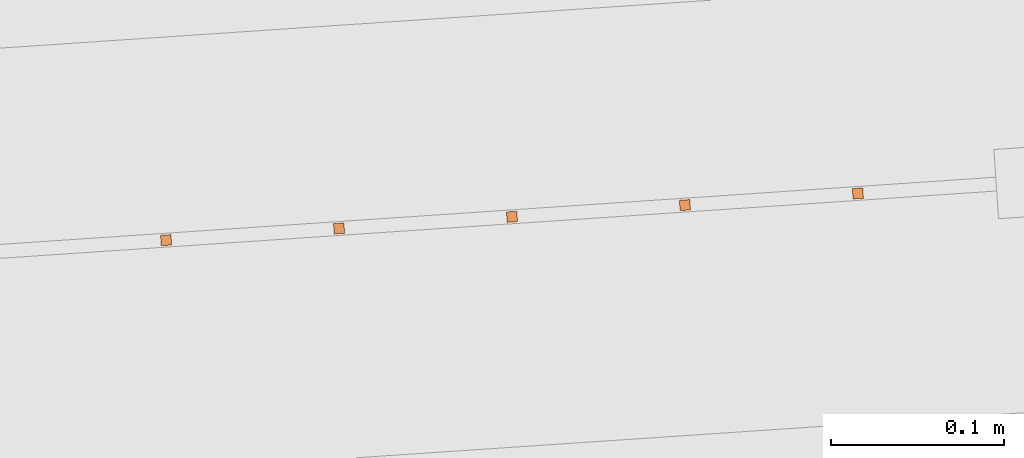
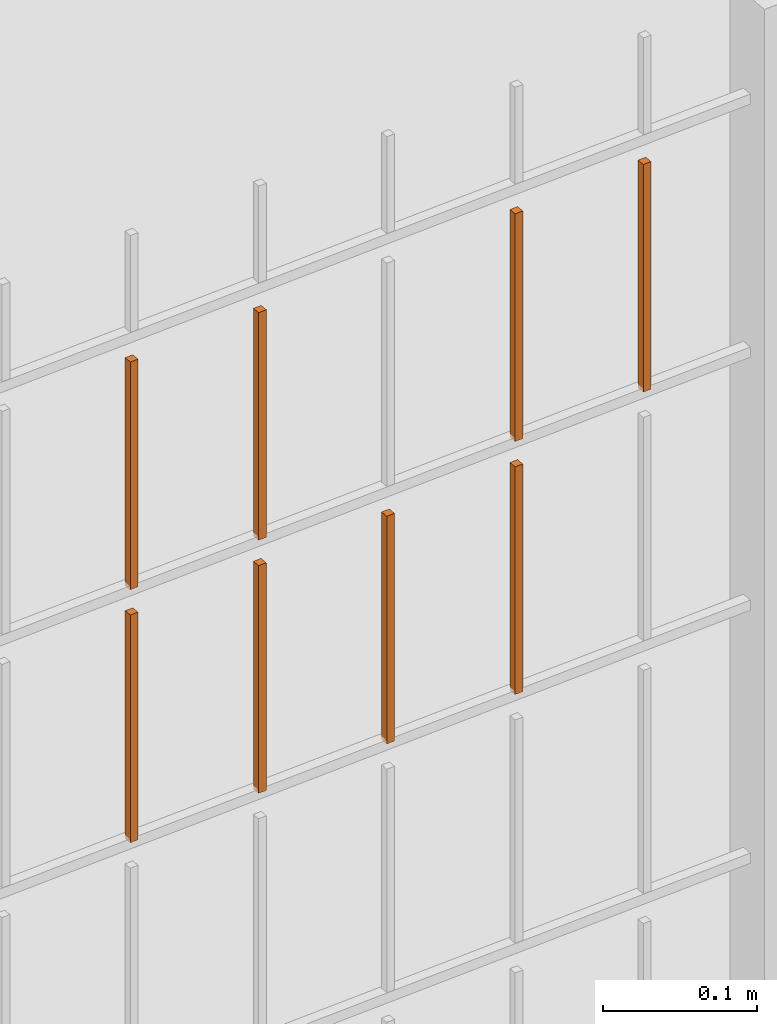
# One storey, part 76 of 1809: 8 proxies, 1 element without a shape of its own.
"""IFC2X3 building model written with IfcOpenShell, lengths in millimetres."""

from ifc_helpers import new_model, entity, si_unit, converted_unit, derived_unit, money_unit, direction, frame, origin_with_axes, place, context, subcontext, project, spatial, faceted_brep, source, transform, mapped, material, type_object, element, aggregate, save


model = new_model("IFC2X3")

# Units and contexts
model_context = context("Model", 3, precision=0.01, world=origin_with_axes(), true_north=direction((0.0, 1.0)))
body_context = subcontext(model_context, "Body", "Model", "MODEL_VIEW")
ifc_project = project(units=[si_unit("LENGTHUNIT", "METRE", prefix="MILLI"), si_unit("AREAUNIT", "SQUARE_METRE"), si_unit("VOLUMEUNIT", "CUBIC_METRE"), converted_unit("PLANEANGLEUNIT", "DEGREE", entity("IfcPlaneAngleMeasure", 0.0174532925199), si_unit("PLANEANGLEUNIT", "RADIAN"), dimensions=[0, 0, 0, 0, 0, 0, 0]), si_unit("SOLIDANGLEUNIT", "STERADIAN"), money_unit("EUR"), converted_unit("TIMEUNIT", "Year", entity("IfcTimeMeasure", 31556926.0), si_unit("TIMEUNIT", "SECOND"), dimensions=[0, 0, 1, 0, 0, 0, 0]), si_unit("MASSUNIT", "GRAM", prefix="KILO"), si_unit("THERMODYNAMICTEMPERATUREUNIT", "DEGREE_CELSIUS"), si_unit("LUMINOUSINTENSITYUNIT", "LUMEN"), si_unit("ENERGYUNIT", "JOULE", prefix="MEGA"), derived_unit("THERMALCONDUCTANCEUNIT", [(si_unit("POWERUNIT", "WATT"), 1), (si_unit("LENGTHUNIT", "METRE"), -1), (si_unit("THERMODYNAMICTEMPERATUREUNIT", "KELVIN"), -1)]), derived_unit("SPECIFICHEATCAPACITYUNIT", [(si_unit("ENERGYUNIT", "JOULE"), 1), (si_unit("MASSUNIT", "GRAM", prefix="KILO"), -1), (si_unit("THERMODYNAMICTEMPERATUREUNIT", "KELVIN"), -1)]), derived_unit("MASSDENSITYUNIT", [(si_unit("MASSUNIT", "GRAM", prefix="KILO"), 1), (si_unit("VOLUMEUNIT", "CUBIC_METRE"), -1)])], contexts=[model_context])

# Site, building, storey
site_placement = place(None, origin_with_axes())
site = spatial("IfcSite", under=ifc_project, at=site_placement, Name="Politse- ja Piirivalveameti ning Päästeameti ühishoone", CompositionType="ELEMENT")
building_placement = place(site_placement, origin_with_axes())
building = spatial("IfcBuilding", under=site, at=building_placement, Name="Politse- ja Piirivalveameti ning Päästeameti ühishoone", CompositionType="ELEMENT")
storey_placement = place(building_placement, origin_with_axes())
storey = spatial("IfcBuildingStorey", under=building, at=storey_placement, Name="Esimene korrus", CompositionType="ELEMENT", Elevation=0.0)

# Proxies
building_element_proxy_type_1 = type_object("IfcBuildingElementProxyType", Name="Railing Type", PredefinedType="NOTDEFINED")
proxy_1_placement = place(storey_placement, frame((89252.001212, -29183.4766571, 203.661247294), z_axis=(0.0, 0.0, 1.0), x_axis=(1.0, 0.0, 0.0)))
proxy_1 = element("IfcBuildingElementProxy", 1, at=proxy_1_placement, inside=storey, type_object=building_element_proxy_type_1, Name="PIIRDEAED")
ifc_material = material(Name="ET-03_Raud")
building_element_proxy_type_2 = type_object("IfcBuildingElementProxyType", Name="IfcBuildingElementProxy", PredefinedType="NOTDEFINED")
shared_shape_1 = source(origin_with_axes(), body_context, "Body", "Brep", [
    faceted_brep([(3.0, 3.0, -0.000752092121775), (-3.0, 3.0, -0.000752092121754), (-3.0, 3.0, 179.99926046), (3.0, 3.0, 179.99926046), (3.0, -3.0, 0.000752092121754), (-3.0, -3.0, 0.000752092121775), (-3.0, -3.0, 180.000764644), (3.0, -3.0, 180.000764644)], [[[0, 1, 2, 3]], [[0, 4, 5, 1]], [[1, 5, 6, 2]], [[3, 2, 6, 7]], [[4, 0, 3, 7]], [[5, 4, 7, 6]]]),
])
proxy_2_placement = place(proxy_1_placement, frame((-104787.91297, -24375.8028274, 1800.90447064), z_axis=(0.0, 0.0, 1.0), x_axis=(1.0, 0.0, 0.0)))
proxy_2 = element("IfcBuildingElementProxy", 2, at=proxy_2_placement, type_object=building_element_proxy_type_2, material=ifc_material, Name="BALUSTER - 001", context=body_context, shape_type="MappedRepresentation", body=[
    mapped(shared_shape_1, transform((0.0, 0.0, 0.0), x_axis=(-0.0673926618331, 0.997726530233, 0.0), y_axis=(-0.997726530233, -0.0673926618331, 0.0), z_axis=(0.0, 0.0, 1.0))),
])
shared_shape_2 = source(origin_with_axes(), body_context, "Body", "Brep", [
    faceted_brep([(3.0, 3.0, -0.000752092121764), (-3.0, 3.0, -0.000752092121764), (-3.0, 3.0, 179.99926046), (3.0, 3.0, 179.99926046), (3.0, -3.0, 0.000752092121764), (-3.0, -3.0, 0.000752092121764), (-3.0, -3.0, 180.000764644), (3.0, -3.0, 180.000764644)], [[[0, 1, 2, 3]], [[0, 4, 5, 1]], [[1, 5, 6, 2]], [[3, 2, 6, 7]], [[4, 0, 3, 7]], [[5, 4, 7, 6]]]),
])
proxy_3_placement = place(proxy_1_placement, frame((-104688.140317, -24369.0635612, 1800.92954038), z_axis=(0.0, 0.0, 1.0), x_axis=(1.0, 0.0, 0.0)))
proxy_3 = element("IfcBuildingElementProxy", 3, at=proxy_3_placement, type_object=building_element_proxy_type_2, material=ifc_material, Name="BALUSTER - 001", context=body_context, shape_type="MappedRepresentation", body=[
    mapped(shared_shape_2, transform((0.0, 0.0, 0.0), x_axis=(-0.0673926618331, 0.997726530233, 0.0), y_axis=(-0.997726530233, -0.0673926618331, 0.0), z_axis=(0.0, 0.0, 1.0))),
])
shared_shape_3 = source(origin_with_axes(), body_context, "Body", "Brep", [
    faceted_brep([(3.0, 3.0, -0.000752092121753), (-3.0, 3.0, -0.000752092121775), (-3.0, 3.0, 179.99926046), (3.0, 3.0, 179.99926046), (3.0, -3.0, 0.000752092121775), (-3.0, -3.0, 0.000752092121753), (-3.0, -3.0, 180.000764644), (3.0, -3.0, 180.000764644)], [[[0, 1, 2, 3]], [[0, 4, 5, 1]], [[1, 5, 6, 2]], [[3, 2, 6, 7]], [[4, 0, 3, 7]], [[5, 4, 7, 6]]]),
])
proxy_4_placement = place(proxy_1_placement, frame((-105087.230929, -24396.0206259, 1800.82926143), z_axis=(0.0, 0.0, 1.0), x_axis=(1.0, 0.0, 0.0)))
proxy_4 = element("IfcBuildingElementProxy", 4, at=proxy_4_placement, type_object=building_element_proxy_type_2, material=ifc_material, Name="BALUSTER - 001", context=body_context, shape_type="MappedRepresentation", body=[
    mapped(shared_shape_3, transform((0.0, 0.0, 0.0), x_axis=(-0.0673926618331, 0.997726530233, 0.0), y_axis=(-0.997726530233, -0.0673926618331, 0.0), z_axis=(0.0, 0.0, 1.0))),
])
shared_shape_4 = source(origin_with_axes(), body_context, "Body", "Brep", [
    faceted_brep([(3.0, 3.0, -0.000752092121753), (-3.0, 3.0, -0.000752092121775), (-3.0, 3.0, 179.99926046), (3.0, 3.0, 179.99926046), (3.0, -3.0, 0.000752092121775), (-3.0, -3.0, 0.000752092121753), (-3.0, -3.0, 180.000764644), (3.0, -3.0, 180.000764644)], [[[0, 1, 2, 3]], [[0, 4, 5, 1]], [[1, 5, 6, 2]], [[3, 2, 6, 7]], [[4, 0, 3, 7]], [[5, 4, 7, 6]]]),
])
proxy_5_placement = place(proxy_1_placement, frame((-105087.230929, -24396.0206259, 1600.82926143), z_axis=(0.0, 0.0, 1.0), x_axis=(1.0, 0.0, 0.0)))
proxy_5 = element("IfcBuildingElementProxy", 5, at=proxy_5_placement, type_object=building_element_proxy_type_2, material=ifc_material, Name="BALUSTER - 001", context=body_context, shape_type="MappedRepresentation", body=[
    mapped(shared_shape_4, transform((0.0, 0.0, 0.0), x_axis=(-0.0673926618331, 0.997726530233, 0.0), y_axis=(-0.997726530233, -0.0673926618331, 0.0), z_axis=(0.0, 0.0, 1.0))),
])
shared_shape_5 = source(origin_with_axes(), body_context, "Body", "Brep", [
    faceted_brep([(3.0, 3.0, -0.000752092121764), (-3.0, 3.0, -0.000752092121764), (-3.0, 3.0, 179.99926046), (3.0, 3.0, 179.99926046), (3.0, -3.0, 0.000752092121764), (-3.0, -3.0, 0.000752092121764), (-3.0, -3.0, 180.000764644), (3.0, -3.0, 180.000764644)], [[[0, 1, 2, 3]], [[0, 4, 5, 1]], [[1, 5, 6, 2]], [[3, 2, 6, 7]], [[4, 0, 3, 7]], [[5, 4, 7, 6]]]),
])
proxy_6_placement = place(proxy_1_placement, frame((-104987.458276, -24389.2813598, 1800.85433117), z_axis=(0.0, 0.0, 1.0), x_axis=(1.0, 0.0, 0.0)))
proxy_6 = element("IfcBuildingElementProxy", 6, at=proxy_6_placement, type_object=building_element_proxy_type_2, material=ifc_material, Name="BALUSTER - 001", context=body_context, shape_type="MappedRepresentation", body=[
    mapped(shared_shape_5, transform((0.0, 0.0, 0.0), x_axis=(-0.0673926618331, 0.997726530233, 0.0), y_axis=(-0.997726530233, -0.0673926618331, 0.0), z_axis=(0.0, 0.0, 1.0))),
])
shared_shape_6 = source(origin_with_axes(), body_context, "Body", "Brep", [
    faceted_brep([(3.0, 3.0, -0.000752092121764), (-3.0, 3.0, -0.000752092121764), (-3.0, 3.0, 179.99926046), (3.0, 3.0, 179.99926046), (3.0, -3.0, 0.000752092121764), (-3.0, -3.0, 0.000752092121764), (-3.0, -3.0, 180.000764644), (3.0, -3.0, 180.000764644)], [[[0, 1, 2, 3]], [[0, 4, 5, 1]], [[1, 5, 6, 2]], [[3, 2, 6, 7]], [[4, 0, 3, 7]], [[5, 4, 7, 6]]]),
])
proxy_7_placement = place(proxy_1_placement, frame((-104987.458276, -24389.2813598, 1600.85433117), z_axis=(0.0, 0.0, 1.0), x_axis=(1.0, 0.0, 0.0)))
proxy_7 = element("IfcBuildingElementProxy", 7, at=proxy_7_placement, type_object=building_element_proxy_type_2, material=ifc_material, Name="BALUSTER - 001", context=body_context, shape_type="MappedRepresentation", body=[
    mapped(shared_shape_6, transform((0.0, 0.0, 0.0), x_axis=(-0.0673926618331, 0.997726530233, 0.0), y_axis=(-0.997726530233, -0.0673926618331, 0.0), z_axis=(0.0, 0.0, 1.0))),
])
shared_shape_7 = source(origin_with_axes(), body_context, "Body", "Brep", [
    faceted_brep([(3.0, 3.0, -0.000752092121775), (-3.0, 3.0, -0.000752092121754), (-3.0, 3.0, 179.99926046), (3.0, 3.0, 179.99926046), (3.0, -3.0, 0.000752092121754), (-3.0, -3.0, 0.000752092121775), (-3.0, -3.0, 180.000764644), (3.0, -3.0, 180.000764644)], [[[0, 1, 2, 3]], [[0, 4, 5, 1]], [[1, 5, 6, 2]], [[3, 2, 6, 7]], [[4, 0, 3, 7]], [[5, 4, 7, 6]]]),
])
proxy_8_placement = place(proxy_1_placement, frame((-104787.91297, -24375.8028274, 1600.90447064), z_axis=(0.0, 0.0, 1.0), x_axis=(1.0, 0.0, 0.0)))
proxy_8 = element("IfcBuildingElementProxy", 8, at=proxy_8_placement, type_object=building_element_proxy_type_2, material=ifc_material, Name="BALUSTER - 001", context=body_context, shape_type="MappedRepresentation", body=[
    mapped(shared_shape_7, transform((0.0, 0.0, 0.0), x_axis=(-0.0673926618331, 0.997726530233, 0.0), y_axis=(-0.997726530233, -0.0673926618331, 0.0), z_axis=(0.0, 0.0, 1.0))),
])
shared_shape_8 = source(origin_with_axes(), body_context, "Body", "Brep", [
    faceted_brep([(3.0, 3.0, -0.000752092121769), (-3.0, 3.0, -0.00075209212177), (-3.0, 3.0, 179.99926046), (3.0, 3.0, 179.99926046), (3.0, -3.0, 0.00075209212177), (-3.0, -3.0, 0.000752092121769), (-3.0, -3.0, 180.000764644), (3.0, -3.0, 180.000764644)], [[[0, 1, 2, 3]], [[0, 4, 5, 1]], [[1, 5, 6, 2]], [[3, 2, 6, 7]], [[4, 0, 3, 7]], [[5, 4, 7, 6]]]),
])
proxy_9_placement = place(proxy_1_placement, frame((-104887.685623, -24382.5420936, 1600.87940091), z_axis=(0.0, 0.0, 1.0), x_axis=(1.0, 0.0, 0.0)))
proxy_9 = element("IfcBuildingElementProxy", 9, at=proxy_9_placement, type_object=building_element_proxy_type_2, material=ifc_material, Name="BALUSTER - 001", context=body_context, shape_type="MappedRepresentation", body=[
    mapped(shared_shape_8, transform((0.0, 0.0, 0.0), x_axis=(-0.0673926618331, 0.997726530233, 0.0), y_axis=(-0.997726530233, -0.0673926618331, 0.0), z_axis=(0.0, 0.0, 1.0))),
])
aggregate(proxy_1, [proxy_8, proxy_9, proxy_7, proxy_5, proxy_3, proxy_2, proxy_6, proxy_4])

save(model, "model.ifc")
